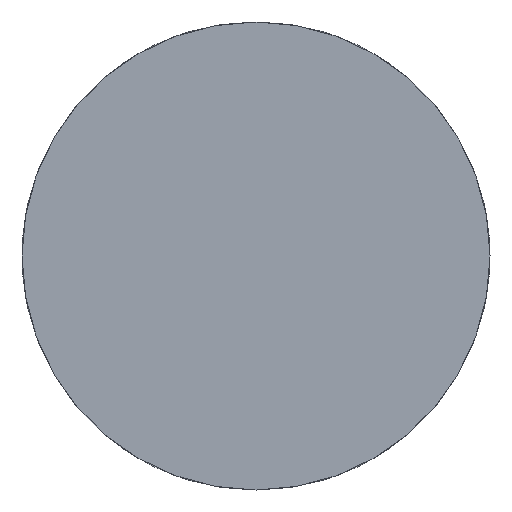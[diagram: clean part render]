
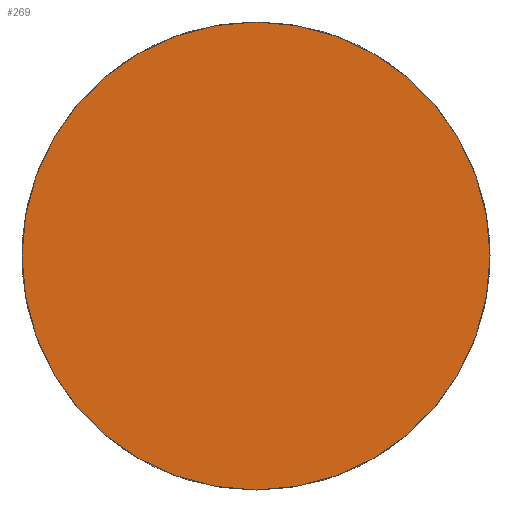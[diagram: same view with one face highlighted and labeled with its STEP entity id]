
A CAD part, left-side view. The second image highlights one B-rep face of the part: STEP entity #269.
In plain terms, the highlighted planar face has unit normal (-1, 0, 0).
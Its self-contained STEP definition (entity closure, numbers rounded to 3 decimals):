
#269 = ADVANCED_FACE( '', ( #582 ), #583, .F. );
#582 = FACE_OUTER_BOUND( '', #935, .T. );
#583 = PLANE( '', #936 );
#935 = EDGE_LOOP( '', ( #1795 ) );
#936 = AXIS2_PLACEMENT_3D( '', #1796, #1797, #1798 );
#1795 = ORIENTED_EDGE( '', *, *, #2339, .F. );
#1796 = CARTESIAN_POINT( '', ( 0., 0., 0. ) );
#1797 = DIRECTION( '', ( 1., 0., 0. ) );
#1798 = DIRECTION( '', ( 0., 0., -1. ) );
#2339 = EDGE_CURVE( '', #2892, #2892, #2893, .T. );
#2892 = VERTEX_POINT( '', #3632 );
#2893 = CIRCLE( '', #3633, 10.57 );
#3632 = CARTESIAN_POINT( '', ( 0., 0., -10.57 ) );
#3633 = AXIS2_PLACEMENT_3D( '', #4413, #4414, #4415 );
#4413 = CARTESIAN_POINT( '', ( 0., 0., 0. ) );
#4414 = DIRECTION( '', ( 1., 0., 0. ) );
#4415 = DIRECTION( '', ( 0., 0., -1. ) );
